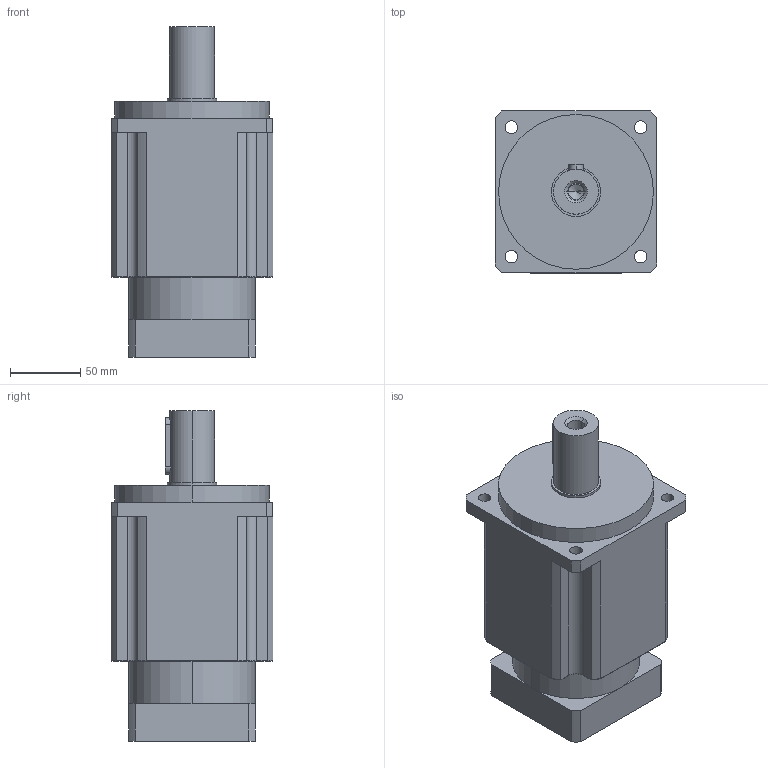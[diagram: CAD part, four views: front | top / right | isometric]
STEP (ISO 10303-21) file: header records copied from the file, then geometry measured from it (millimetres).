
FILE_DESCRIPTION (( 'STEP AP203' ), '1' );
FILE_NAME ('IB115L3.STEP', '2015-03-12T07:30:27', ( 'User' ), ( 'china' ), 'SwSTEP 2.0', 'SolidWorks 2015', '' );
FILE_SCHEMA (( 'CONFIG_CONTROL_DESIGN' ));
Length unit declared in the file: millimetre
Products named in the file (1): IB115L3
Bounding box: 115 x 115 x 235 mm (x, y, z)
Volume: 1870088.8 mm3; surface area: 111615.1 mm2
Topology: 1 solids, 1 shells, 139 faces, 333 edges, 203 vertices
Faces by surface type: cylinder 75, plane 40, cone 12, torus 12
Entity records: 4174 total; most frequent: CARTESIAN_POINT 817, DIRECTION 731, ORIENTED_EDGE 646, EDGE_CURVE 323, AXIS2_PLACEMENT_3D 287, VERTEX_POINT 203, EDGE_LOOP 164, LINE 157
